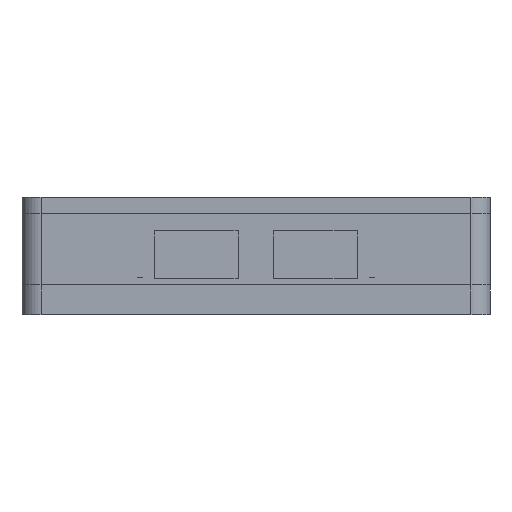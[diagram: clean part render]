
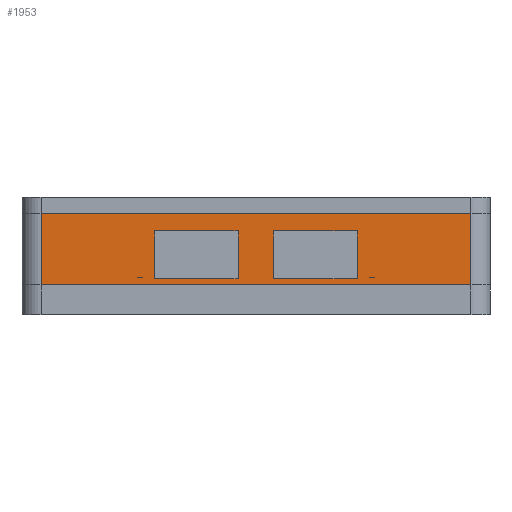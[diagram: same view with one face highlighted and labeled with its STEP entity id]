
A CAD part, left-side view. The second image highlights one B-rep face of the part: STEP entity #1953.
In plain terms, the highlighted planar face has unit normal (-1, 0, 0).
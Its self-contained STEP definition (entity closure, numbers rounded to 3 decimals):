
#624 = EDGE_CURVE('',#625,#627,#629,.T.);
#625 = VERTEX_POINT('',#626);
#626 = CARTESIAN_POINT('',(-4.8,-1.6,8.));
#627 = VERTEX_POINT('',#628);
#628 = CARTESIAN_POINT('',(-4.8,70.6,8.));
#629 = LINE('',#630,#631);
#630 = CARTESIAN_POINT('',(-4.8,-1.6,8.));
#631 = VECTOR('',#632,1.);
#632 = DIRECTION('',(0.,1.,0.));
#1019 = VERTEX_POINT('',#1020);
#1020 = CARTESIAN_POINT('',(-4.8,-1.6,-4.));
#1027 = EDGE_CURVE('',#1019,#1028,#1030,.T.);
#1028 = VERTEX_POINT('',#1029);
#1029 = CARTESIAN_POINT('',(-4.8,70.6,-4.));
#1030 = LINE('',#1031,#1032);
#1031 = CARTESIAN_POINT('',(-4.8,-1.6,-4.));
#1032 = VECTOR('',#1033,1.);
#1033 = DIRECTION('',(0.,1.,0.));
#1544 = VERTEX_POINT('',#1545);
#1545 = CARTESIAN_POINT('',(-4.8,51.52,-2.95));
#1551 = EDGE_CURVE('',#1552,#1544,#1554,.T.);
#1552 = VERTEX_POINT('',#1553);
#1553 = CARTESIAN_POINT('',(-4.8,37.52,-2.95));
#1554 = LINE('',#1555,#1556);
#1555 = CARTESIAN_POINT('',(-4.8,36.01,-2.95));
#1556 = VECTOR('',#1557,1.);
#1557 = DIRECTION('',(0.,1.,0.));
#1575 = EDGE_CURVE('',#1576,#1544,#1578,.T.);
#1576 = VERTEX_POINT('',#1577);
#1577 = CARTESIAN_POINT('',(-4.8,51.52,5.05));
#1578 = LINE('',#1579,#1580);
#1579 = CARTESIAN_POINT('',(-4.8,51.52,-0.475));
#1580 = VECTOR('',#1581,1.);
#1581 = DIRECTION('',(0.,0.,-1.));
#1599 = EDGE_CURVE('',#1600,#1576,#1602,.T.);
#1600 = VERTEX_POINT('',#1601);
#1601 = CARTESIAN_POINT('',(-4.8,37.52,5.05));
#1602 = LINE('',#1603,#1604);
#1603 = CARTESIAN_POINT('',(-4.8,36.01,5.05));
#1604 = VECTOR('',#1605,1.);
#1605 = DIRECTION('',(0.,1.,0.));
#1623 = EDGE_CURVE('',#1600,#1552,#1624,.T.);
#1624 = LINE('',#1625,#1626);
#1625 = CARTESIAN_POINT('',(-4.8,37.52,-0.475));
#1626 = VECTOR('',#1627,1.);
#1627 = DIRECTION('',(0.,0.,-1.));
#1640 = VERTEX_POINT('',#1641);
#1641 = CARTESIAN_POINT('',(-4.8,31.52,-2.95));
#1647 = EDGE_CURVE('',#1648,#1640,#1650,.T.);
#1648 = VERTEX_POINT('',#1649);
#1649 = CARTESIAN_POINT('',(-4.8,17.52,-2.95));
#1650 = LINE('',#1651,#1652);
#1651 = CARTESIAN_POINT('',(-4.8,26.01,-2.95));
#1652 = VECTOR('',#1653,1.);
#1653 = DIRECTION('',(0.,1.,0.));
#1671 = EDGE_CURVE('',#1672,#1640,#1674,.T.);
#1672 = VERTEX_POINT('',#1673);
#1673 = CARTESIAN_POINT('',(-4.8,31.52,5.05));
#1674 = LINE('',#1675,#1676);
#1675 = CARTESIAN_POINT('',(-4.8,31.52,-0.475));
#1676 = VECTOR('',#1677,1.);
#1677 = DIRECTION('',(0.,0.,-1.));
#1695 = EDGE_CURVE('',#1696,#1672,#1698,.T.);
#1696 = VERTEX_POINT('',#1697);
#1697 = CARTESIAN_POINT('',(-4.8,17.52,5.05));
#1698 = LINE('',#1699,#1700);
#1699 = CARTESIAN_POINT('',(-4.8,26.01,5.05));
#1700 = VECTOR('',#1701,1.);
#1701 = DIRECTION('',(0.,1.,0.));
#1719 = EDGE_CURVE('',#1696,#1648,#1720,.T.);
#1720 = LINE('',#1721,#1722);
#1721 = CARTESIAN_POINT('',(-4.8,17.52,-0.475));
#1722 = VECTOR('',#1723,1.);
#1723 = DIRECTION('',(0.,0.,-1.));
#1953 = ADVANCED_FACE('',(#1954,#1970,#1976),#1982,.T.);
#1954 = FACE_BOUND('',#1955,.T.);
#1955 = EDGE_LOOP('',(#1956,#1962,#1963,#1969));
#1956 = ORIENTED_EDGE('',*,*,#1957,.T.);
#1957 = EDGE_CURVE('',#1019,#625,#1958,.T.);
#1958 = LINE('',#1959,#1960);
#1959 = CARTESIAN_POINT('',(-4.8,-1.6,-4.));
#1960 = VECTOR('',#1961,1.);
#1961 = DIRECTION('',(0.,0.,1.));
#1962 = ORIENTED_EDGE('',*,*,#624,.T.);
#1963 = ORIENTED_EDGE('',*,*,#1964,.F.);
#1964 = EDGE_CURVE('',#1028,#627,#1965,.T.);
#1965 = LINE('',#1966,#1967);
#1966 = CARTESIAN_POINT('',(-4.8,70.6,-4.));
#1967 = VECTOR('',#1968,1.);
#1968 = DIRECTION('',(0.,0.,1.));
#1969 = ORIENTED_EDGE('',*,*,#1027,.F.);
#1970 = FACE_BOUND('',#1971,.T.);
#1971 = EDGE_LOOP('',(#1972,#1973,#1974,#1975));
#1972 = ORIENTED_EDGE('',*,*,#1599,.F.);
#1973 = ORIENTED_EDGE('',*,*,#1623,.T.);
#1974 = ORIENTED_EDGE('',*,*,#1551,.T.);
#1975 = ORIENTED_EDGE('',*,*,#1575,.F.);
#1976 = FACE_BOUND('',#1977,.T.);
#1977 = EDGE_LOOP('',(#1978,#1979,#1980,#1981));
#1978 = ORIENTED_EDGE('',*,*,#1695,.F.);
#1979 = ORIENTED_EDGE('',*,*,#1719,.T.);
#1980 = ORIENTED_EDGE('',*,*,#1647,.T.);
#1981 = ORIENTED_EDGE('',*,*,#1671,.F.);
#1982 = PLANE('',#1983);
#1983 = AXIS2_PLACEMENT_3D('',#1984,#1985,#1986);
#1984 = CARTESIAN_POINT('',(-4.8,34.5,2.));
#1985 = DIRECTION('',(-1.,-0.,-0.));
#1986 = DIRECTION('',(0.,0.,-1.));
